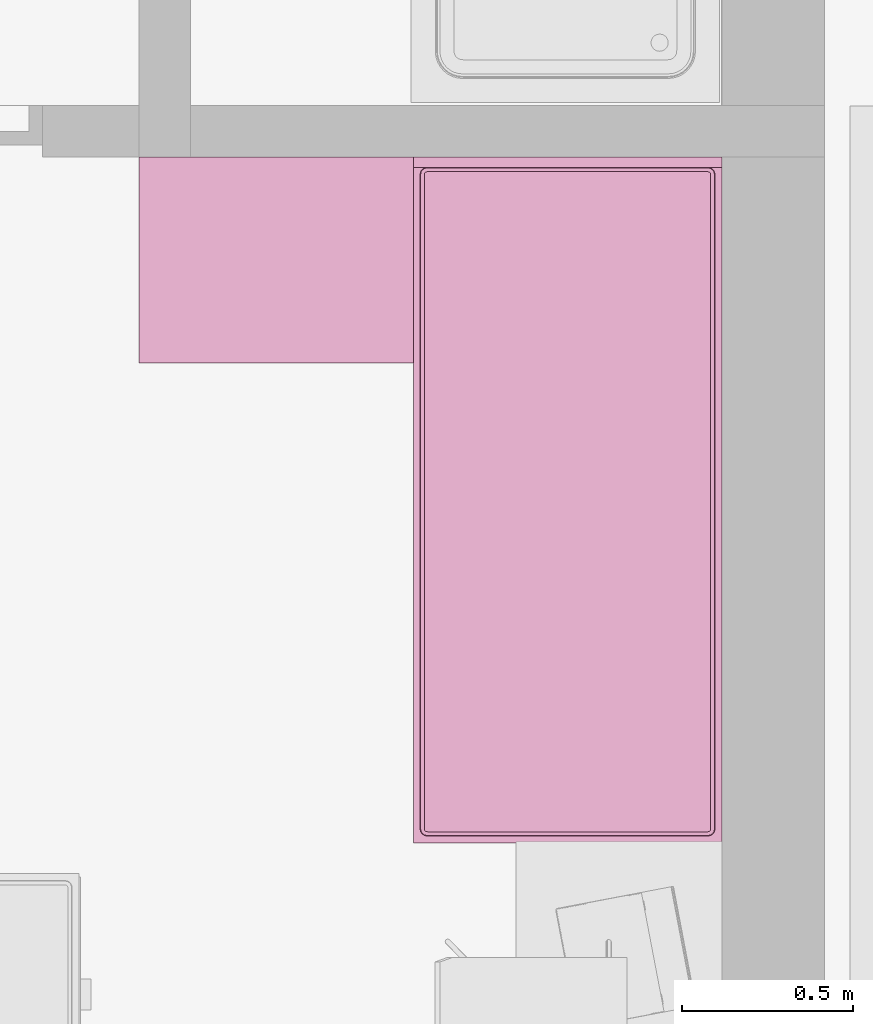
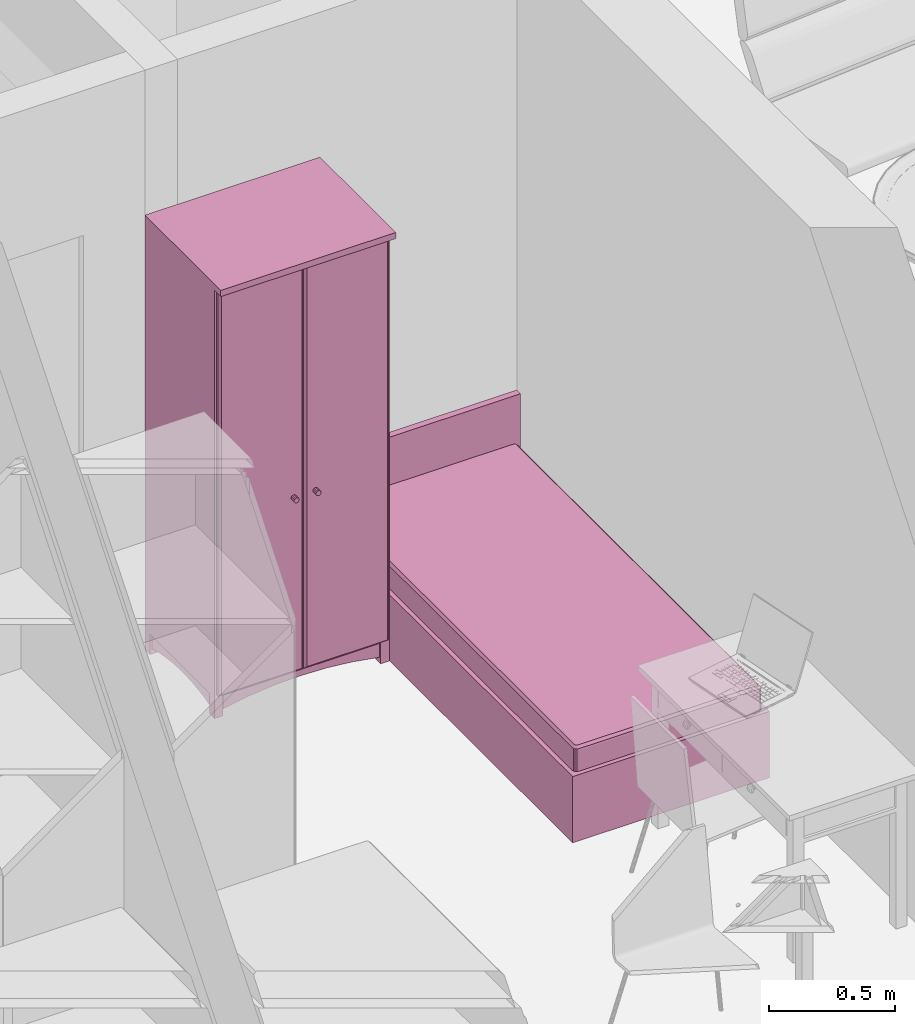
# One storey, part 109 of 165: 2 furnishings.
"""IFC2X3 building model written with IfcOpenShell, lengths in millimetres."""

from ifc_helpers import new_model, entity, si_unit, converted_unit, money_unit, direction, frame, origin_with_axes, place, context, subcontext, project, spatial, faceted_brep, source, transform, mapped, material, material_list, type_object, element, save


model = new_model("IFC2X3")

# Units and contexts
model_context = context("Model", 3, precision=1e-05, world=origin_with_axes(), true_north=direction((0.0, 1.0)))
body_context = subcontext(model_context, "Body", "Model", "MODEL_VIEW")
ifc_project = project(units=[si_unit("LENGTHUNIT", "METRE", prefix="MILLI"), si_unit("AREAUNIT", "SQUARE_METRE"), si_unit("VOLUMEUNIT", "CUBIC_METRE"), converted_unit("PLANEANGLEUNIT", "DEGREE", entity("IfcPlaneAngleMeasure", 0.0174532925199), si_unit("PLANEANGLEUNIT", "RADIAN"), dimensions=[0, 0, 0, 0, 0, 0, 0]), si_unit("SOLIDANGLEUNIT", "STERADIAN"), money_unit("USD"), converted_unit("TIMEUNIT", "Year", entity("IfcTimeMeasure", 31556926.0), si_unit("TIMEUNIT", "SECOND"), dimensions=[0, 0, 0, 0, 0, 0, 0]), si_unit("MASSUNIT", "GRAM"), si_unit("THERMODYNAMICTEMPERATUREUNIT", "DEGREE_CELSIUS"), si_unit("LUMINOUSINTENSITYUNIT", "LUMEN")], contexts=[model_context])

# Site, building, storey
site_placement = place(None, origin_with_axes())
site = spatial("IfcSite", under=ifc_project, at=site_placement, Name="Site", CompositionType="ELEMENT")
building_placement = place(site_placement, origin_with_axes())
building = spatial("IfcBuilding", under=site, at=building_placement, Name="Building", CompositionType="ELEMENT")
storey_placement = place(building_placement, frame((0.0, 0.0, 6300.0), z_axis=(0.0, 0.0, 1.0), x_axis=(1.0, 0.0, 0.0)))
storey = spatial("IfcBuildingStorey", under=building, at=storey_placement, Name="4KORRUS", CompositionType="ELEMENT", Elevation=6300.0)

# Furnishings
ifc_material = material(Name="Background")
ifc_material_list = material_list([ifc_material])
furnishing_element_type_1 = type_object("IfcFurnishingElementType", Name="Bed 19")
shared_shape_1 = source(origin_with_axes(), body_context, "Body", "Brep", [
    faceted_brep([(900.0, 1970.0, 0.0), (0.0, 1970.0, 0.0), (0.0, 2000.0, 0.0), (900.0, 2000.0, 0.0), (900.0, 1970.0, 660.0), (0.0, 1970.0, 660.0), (0.0, 2000.0, 660.0), (900.0, 2000.0, 660.0)], [[[0, 1, 2, 3]], [[1, 0, 4, 5]], [[2, 1, 5, 6]], [[3, 2, 6, 7]], [[0, 3, 7, 4]], [[5, 4, 7, 6]]]),
    faceted_brep([(900.0, 0.0, 0.0), (0.0, 0.0, 0.0), (0.0, 1970.0, 0.0), (900.0, 1970.0, 0.0), (900.0, 0.0, 320.0), (0.0, 0.0, 320.0), (0.0, 1970.0, 320.0), (900.0, 1970.0, 320.0)], [[[0, 1, 2, 3]], [[1, 0, 4, 5]], [[2, 1, 5, 6]], [[3, 2, 6, 7]], [[0, 3, 7, 4]], [[5, 4, 7, 6]]]),
    faceted_brep([(905.0, 10.0, 30.0), (900.0, 10.0, 30.0), (900.0, 695.0, 30.0), (905.0, 695.0, 30.0), (905.0, 10.0, 290.0), (900.0, 10.0, 290.0), (900.0, 695.0, 290.0), (905.0, 695.0, 290.0)], [[[0, 1, 2, 3]], [[1, 0, 4, 5]], [[2, 1, 5, 6]], [[3, 2, 6, 7]], [[0, 3, 7, 4]], [[5, 4, 7, 6]]]),
    faceted_brep([(935.0, 307.5, 150.0), (905.0, 307.5, 150.0), (905.0, 397.5, 150.0), (935.0, 397.5, 150.0), (935.0, 307.5, 170.0), (905.0, 307.5, 170.0), (905.0, 397.5, 170.0), (935.0, 397.5, 170.0)], [[[0, 1, 2, 3]], [[1, 0, 4, 5]], [[2, 1, 5, 6]], [[3, 2, 6, 7]], [[0, 3, 7, 4]], [[5, 4, 7, 6]]]),
    faceted_brep([(905.0, 705.0, 30.0), (900.0, 705.0, 30.0), (900.0, 1390.0, 30.0), (905.0, 1390.0, 30.0), (905.0, 705.0, 290.0), (900.0, 705.0, 290.0), (900.0, 1390.0, 290.0), (905.0, 1390.0, 290.0)], [[[0, 1, 2, 3]], [[1, 0, 4, 5]], [[2, 1, 5, 6]], [[3, 2, 6, 7]], [[0, 3, 7, 4]], [[5, 4, 7, 6]]]),
    faceted_brep([(935.0, 1002.5, 150.0), (905.0, 1002.5, 150.0), (905.0, 1092.5, 150.0), (935.0, 1092.5, 150.0), (935.0, 1002.5, 170.0), (905.0, 1002.5, 170.0), (905.0, 1092.5, 170.0), (935.0, 1092.5, 170.0)], [[[0, 1, 2, 3]], [[1, 0, 4, 5]], [[2, 1, 5, 6]], [[3, 2, 6, 7]], [[0, 3, 7, 4]], [[5, 4, 7, 6]]]),
    faceted_brep([(20.0, 40.0, 350.0), (20.0, 1950.0, 350.0), (21.522, 1957.654, 350.0), (25.858, 1964.142, 350.0), (32.346, 1968.478, 350.0), (40.0, 1970.0, 350.0), (860.0, 1970.0, 350.0), (867.654, 1968.478, 350.0), (874.142, 1964.142, 350.0), (878.478, 1957.654, 350.0), (880.0, 1950.0, 350.0), (880.0, 40.0, 350.0), (878.478, 32.346, 350.0), (874.142, 25.858, 350.0), (867.654, 21.522, 350.0), (860.0, 20.0, 350.0), (40.0, 20.0, 350.0), (32.346, 21.522, 350.0), (25.858, 25.858, 350.0), (21.522, 32.346, 350.0), (20.0, 40.0, 420.0), (20.0, 1950.0, 420.0), (21.522, 1957.654, 420.0), (25.858, 1964.142, 420.0), (32.346, 1968.478, 420.0), (40.0, 1970.0, 420.0), (860.0, 1970.0, 420.0), (867.654, 1968.478, 420.0), (874.142, 1964.142, 420.0), (878.478, 1957.654, 420.0), (880.0, 1950.0, 420.0), (880.0, 40.0, 420.0), (878.478, 32.346, 420.0), (874.142, 25.858, 420.0), (867.654, 21.522, 420.0), (860.0, 20.0, 420.0), (40.0, 20.0, 420.0), (32.346, 21.522, 420.0), (25.858, 25.858, 420.0), (21.522, 32.346, 420.0), (21.522, 40.15, 427.654), (21.522, 1949.85, 427.654), (22.956, 1957.06, 427.654), (26.955, 1963.045, 427.654), (32.94, 1967.044, 427.654), (40.15, 1968.478, 427.654), (859.85, 1968.478, 427.654), (867.06, 1967.044, 427.654), (873.045, 1963.045, 427.654), (877.044, 1957.06, 427.654), (878.478, 1949.85, 427.654), (878.478, 40.15, 427.654), (877.044, 32.94, 427.654), (873.045, 26.955, 427.654), (867.06, 22.956, 427.654), (859.85, 21.522, 427.654), (40.15, 21.522, 427.654), (32.94, 22.956, 427.654), (26.955, 26.955, 427.654), (22.956, 32.94, 427.654), (32.346, 41.216, 438.478), (32.346, 1948.784, 438.478), (33.152, 1952.836, 438.478), (34.759, 1955.241, 438.478), (37.164, 1956.848, 438.478), (41.216, 1957.654, 438.478), (858.784, 1957.654, 438.478), (862.836, 1956.848, 438.478), (865.241, 1955.241, 438.478), (866.848, 1952.836, 438.478), (867.654, 1948.784, 438.478), (867.654, 41.216, 438.478), (866.848, 37.164, 438.478), (865.241, 34.759, 438.478), (862.836, 33.152, 438.478), (858.784, 32.346, 438.478), (41.216, 32.346, 438.478), (37.164, 33.152, 438.478), (34.759, 34.759, 438.478), (33.152, 37.164, 438.478), (40.0, 41.97, 440.0), (40.0, 1948.03, 440.0), (40.327, 1949.673, 440.0), (40.0, 1950.0, 439.924), (41.97, 1950.0, 440.0), (858.03, 1950.0, 440.0), (859.673, 1949.673, 440.0), (860.0, 1950.0, 439.924), (860.0, 1948.03, 440.0), (860.0, 41.97, 440.0), (859.673, 40.327, 440.0), (860.0, 40.0, 439.924), (858.03, 40.0, 440.0), (41.97, 40.0, 440.0), (40.327, 40.327, 440.0), (40.0, 40.0, 439.924)], [[[0, 1, 2, 3, 4, 5, 6, 7, 8, 9, 10, 11, 12, 13, 14, 15, 16, 17, 18, 19]], [[1, 0, 20, 21]], [[2, 1, 21, 22]], [[3, 2, 22, 23]], [[4, 3, 23, 24]], [[5, 4, 24, 25]], [[6, 5, 25, 26]], [[7, 6, 26, 27]], [[8, 7, 27, 28]], [[9, 8, 28, 29]], [[10, 9, 29, 30]], [[11, 10, 30, 31]], [[12, 11, 31, 32]], [[13, 12, 32, 33]], [[14, 13, 33, 34]], [[15, 14, 34, 35]], [[16, 15, 35, 36]], [[17, 16, 36, 37]], [[18, 17, 37, 38]], [[19, 18, 38, 39]], [[0, 19, 39, 20]], [[21, 20, 40, 41]], [[22, 21, 41, 42]], [[23, 22, 42, 43]], [[24, 23, 43, 44]], [[25, 24, 44, 45]], [[26, 25, 45, 46]], [[27, 26, 46, 47]], [[28, 27, 47, 48]], [[29, 28, 48, 49]], [[30, 29, 49, 50]], [[31, 30, 50, 51]], [[32, 31, 51, 52]], [[33, 32, 52, 53]], [[34, 33, 53, 54]], [[35, 34, 54, 55]], [[36, 35, 55, 56]], [[37, 36, 56, 57]], [[38, 37, 57, 58]], [[39, 38, 58, 59]], [[20, 39, 59, 40]], [[41, 40, 60, 61]], [[42, 41, 61, 62]], [[43, 42, 62, 63]], [[44, 43, 63, 64]], [[45, 44, 64, 65]], [[46, 45, 65, 66]], [[47, 46, 66, 67]], [[48, 47, 67, 68]], [[49, 48, 68, 69]], [[50, 49, 69, 70]], [[51, 50, 70, 71]], [[52, 51, 71, 72]], [[53, 52, 72, 73]], [[54, 53, 73, 74]], [[55, 54, 74, 75]], [[56, 55, 75, 76]], [[57, 56, 76, 77]], [[58, 57, 77, 78]], [[59, 58, 78, 79]], [[40, 59, 79, 60]], [[61, 60, 80, 81]], [[62, 61, 81, 82, 83]], [[63, 62, 83]], [[64, 63, 83]], [[65, 64, 83, 82, 84]], [[66, 65, 84, 85]], [[67, 66, 85, 86, 87]], [[68, 67, 87]], [[69, 68, 87]], [[70, 69, 87, 86, 88]], [[71, 70, 88, 89]], [[72, 71, 89, 90, 91]], [[73, 72, 91]], [[74, 73, 91]], [[75, 74, 91, 90, 92]], [[76, 75, 92, 93]], [[77, 76, 93, 94, 95]], [[78, 77, 95]], [[79, 78, 95]], [[60, 79, 95, 94, 80]], [[81, 80, 94, 93, 92, 90, 89, 88, 86, 85, 84, 82]]]),
    faceted_brep([(20.0, 40.0, 350.0), (21.522, 32.346, 350.0), (25.858, 25.858, 350.0), (32.346, 21.522, 350.0), (40.0, 20.0, 350.0), (860.0, 20.0, 350.0), (867.654, 21.522, 350.0), (874.142, 25.858, 350.0), (878.478, 32.346, 350.0), (880.0, 40.0, 350.0), (880.0, 1950.0, 350.0), (878.478, 1957.654, 350.0), (874.142, 1964.142, 350.0), (867.654, 1968.478, 350.0), (860.0, 1970.0, 350.0), (40.0, 1970.0, 350.0), (32.346, 1968.478, 350.0), (25.858, 1964.142, 350.0), (21.522, 1957.654, 350.0), (20.0, 1950.0, 350.0), (20.0, 40.0, 320.0), (21.522, 32.346, 320.0), (25.858, 25.858, 320.0), (32.346, 21.522, 320.0), (40.0, 20.0, 320.0), (860.0, 20.0, 320.0), (867.654, 21.522, 320.0), (874.142, 25.858, 320.0), (878.478, 32.346, 320.0), (880.0, 40.0, 320.0), (880.0, 1950.0, 320.0), (878.478, 1957.654, 320.0), (874.142, 1964.142, 320.0), (867.654, 1968.478, 320.0), (860.0, 1970.0, 320.0), (40.0, 1970.0, 320.0), (32.346, 1968.478, 320.0), (25.858, 1964.142, 320.0), (21.522, 1957.654, 320.0), (20.0, 1950.0, 320.0)], [[[0, 1, 2, 3, 4, 5, 6, 7, 8, 9, 10, 11, 12, 13, 14, 15, 16, 17, 18, 19]], [[0, 20, 21, 1]], [[1, 21, 22, 2]], [[2, 22, 23, 3]], [[3, 23, 24, 4]], [[4, 24, 25, 5]], [[5, 25, 26, 6]], [[6, 26, 27, 7]], [[7, 27, 28, 8]], [[8, 28, 29, 9]], [[9, 29, 30, 10]], [[10, 30, 31, 11]], [[11, 31, 32, 12]], [[12, 32, 33, 13]], [[13, 33, 34, 14]], [[14, 34, 35, 15]], [[15, 35, 36, 16]], [[16, 36, 37, 17]], [[17, 37, 38, 18]], [[18, 38, 39, 19]], [[19, 39, 20, 0]], [[20, 39, 38, 37, 36, 35, 34, 33, 32, 31, 30, 29, 28, 27, 26, 25, 24, 23, 22, 21]]]),
])
furnishing_1_placement = place(storey_placement, frame((-13190.2967033, -17439.2398994, 0.0), z_axis=(0.0, 0.0, 1.0), x_axis=(1.0, 0.0, 0.0)))
element("IfcFurnishingElement", 1, at=furnishing_1_placement, inside=storey, type_object=furnishing_element_type_1, material=ifc_material_list, Name="FU - 013", context=body_context, shape_type="MappedRepresentation", body=[
    mapped(shared_shape_1, transform((0.0, 0.0, 0.0))),
])
furnishing_element_type_2 = type_object("IfcFurnishingElementType", Name="Cupboard 19")
shared_shape_2 = source(origin_with_axes(), body_context, "Body", "Brep", [
    faceted_brep([(780.0, 600.0, 120.0), (780.0, 600.0, 2050.0), (780.0, 580.0, 2050.0), (780.0, 580.0, 120.0), (20.0, 600.0, 120.0), (20.0, 600.0, 2050.0), (20.0, 580.0, 2050.0), (20.0, 580.0, 120.0)], [[[0, 1, 2, 3]], [[4, 5, 1, 0]], [[1, 5, 6, 2]], [[3, 2, 6, 7]], [[0, 3, 7, 4]], [[7, 6, 5, 4]]]),
    faceted_brep([(0.0, 50.0, 100.0), (0.0, 600.0, 100.0), (20.0, 600.0, 100.0), (20.0, 50.0, 100.0), (0.0, 50.0, 2070.0), (0.0, 600.0, 2070.0), (20.0, 600.0, 2070.0), (20.0, 50.0, 2070.0)], [[[0, 1, 2, 3]], [[0, 4, 5, 1]], [[1, 5, 6, 2]], [[2, 6, 7, 3]], [[3, 7, 4, 0]], [[7, 6, 5, 4]]]),
    faceted_brep([(780.0, 50.0, 100.0), (780.0, 600.0, 100.0), (800.0, 600.0, 100.0), (800.0, 50.0, 100.0), (780.0, 50.0, 2070.0), (780.0, 600.0, 2070.0), (800.0, 600.0, 2070.0), (800.0, 50.0, 2070.0)], [[[0, 1, 2, 3]], [[0, 4, 5, 1]], [[1, 5, 6, 2]], [[2, 6, 7, 3]], [[3, 7, 4, 0]], [[7, 6, 5, 4]]]),
    faceted_brep([(20.0, 50.0, 100.0), (20.0, 600.0, 100.0), (780.0, 600.0, 100.0), (780.0, 50.0, 100.0), (20.0, 50.0, 120.0), (20.0, 600.0, 120.0), (780.0, 600.0, 120.0), (780.0, 50.0, 120.0)], [[[0, 1, 2, 3]], [[0, 4, 5, 1]], [[1, 5, 6, 2]], [[2, 6, 7, 3]], [[3, 7, 4, 0]], [[7, 6, 5, 4]]]),
    faceted_brep([(20.0, 50.0, 2050.0), (20.0, 600.0, 2050.0), (780.0, 600.0, 2050.0), (780.0, 50.0, 2050.0), (20.0, 50.0, 2070.0), (20.0, 600.0, 2070.0), (780.0, 600.0, 2070.0), (780.0, 50.0, 2070.0)], [[[0, 1, 2, 3]], [[0, 4, 5, 1]], [[1, 5, 6, 2]], [[2, 6, 7, 3]], [[3, 7, 4, 0]], [[7, 6, 5, 4]]]),
    faceted_brep([(0.0, 600.0, 2070.0), (0.0, 0.0, 2070.0), (0.0, 0.0, 2100.0), (0.0, 600.0, 2100.0), (800.0, 600.0, 2070.0), (800.0, 0.0, 2070.0), (800.0, 0.0, 2100.0), (800.0, 600.0, 2100.0)], [[[0, 1, 2, 3]], [[0, 4, 5, 1]], [[1, 5, 6, 2]], [[3, 2, 6, 7]], [[4, 0, 3, 7]], [[5, 4, 7, 6]]]),
    faceted_brep([(760.0, 590.0, 25.0), (760.0, 570.0, 25.0), (640.962, 570.0, 45.8), (640.962, 590.0, 45.8), (760.0, 590.0, 100.0), (760.0, 570.0, 100.0), (40.0, 570.0, 100.0), (40.0, 570.0, 25.0), (159.038, 570.0, 45.8), (279.23, 570.0, 58.32), (400.0, 570.0, 62.5), (520.77, 570.0, 58.32), (520.77, 590.0, 58.32), (400.0, 590.0, 62.5), (279.23, 590.0, 58.32), (159.038, 590.0, 45.8), (40.0, 590.0, 25.0), (40.0, 590.0, 100.0)], [[[0, 1, 2, 3]], [[4, 5, 1, 0]], [[1, 5, 6, 7, 8, 9, 10, 11, 2]], [[3, 2, 11, 12]], [[0, 3, 12, 13, 14, 15, 16, 17, 4]], [[17, 6, 5, 4]], [[16, 7, 6, 17]], [[15, 8, 7, 16]], [[14, 9, 8, 15]], [[13, 10, 9, 14]], [[12, 11, 10, 13]]]),
    faceted_brep([(760.0, 80.0, 25.0), (760.0, 60.0, 25.0), (640.962, 60.0, 45.8), (640.962, 80.0, 45.8), (760.0, 80.0, 100.0), (760.0, 60.0, 100.0), (40.0, 60.0, 100.0), (40.0, 60.0, 25.0), (159.038, 60.0, 45.8), (279.23, 60.0, 58.32), (400.0, 60.0, 62.5), (520.77, 60.0, 58.32), (520.77, 80.0, 58.32), (400.0, 80.0, 62.5), (279.23, 80.0, 58.32), (159.038, 80.0, 45.8), (40.0, 80.0, 25.0), (40.0, 80.0, 100.0)], [[[0, 1, 2, 3]], [[4, 5, 1, 0]], [[1, 5, 6, 7, 8, 9, 10, 11, 2]], [[3, 2, 11, 12]], [[0, 3, 12, 13, 14, 15, 16, 17, 4]], [[17, 6, 5, 4]], [[16, 7, 6, 17]], [[15, 8, 7, 16]], [[14, 9, 8, 15]], [[13, 10, 9, 14]], [[12, 11, 10, 13]]]),
    faceted_brep([(790.0, 90.0, 25.0), (770.0, 90.0, 25.0), (770.0, 141.266, 38.072), (790.0, 141.266, 38.072), (790.0, 90.0, 100.0), (770.0, 90.0, 100.0), (770.0, 560.0, 100.0), (770.0, 560.0, 25.0), (770.0, 508.734, 38.072), (770.0, 456.752, 47.92), (770.0, 404.257, 54.508), (770.0, 351.453, 57.808), (770.0, 298.547, 57.808), (770.0, 245.743, 54.508), (770.0, 193.248, 47.92), (790.0, 193.248, 47.92), (790.0, 245.743, 54.508), (790.0, 298.547, 57.808), (790.0, 351.453, 57.808), (790.0, 404.257, 54.508), (790.0, 456.752, 47.92), (790.0, 508.734, 38.072), (790.0, 560.0, 25.0), (790.0, 560.0, 100.0)], [[[0, 1, 2, 3]], [[4, 5, 1, 0]], [[1, 5, 6, 7, 8, 9, 10, 11, 12, 13, 14, 2]], [[3, 2, 14, 15]], [[0, 3, 15, 16, 17, 18, 19, 20, 21, 22, 23, 4]], [[23, 6, 5, 4]], [[22, 7, 6, 23]], [[21, 8, 7, 22]], [[20, 9, 8, 21]], [[19, 10, 9, 20]], [[18, 11, 10, 19]], [[17, 12, 11, 18]], [[16, 13, 12, 17]], [[15, 14, 13, 16]]]),
    faceted_brep([(30.0, 90.0, 25.0), (10.0, 90.0, 25.0), (10.0, 141.266, 38.072), (30.0, 141.266, 38.072), (30.0, 90.0, 100.0), (10.0, 90.0, 100.0), (10.0, 560.0, 100.0), (10.0, 560.0, 25.0), (10.0, 508.734, 38.072), (10.0, 456.752, 47.92), (10.0, 404.257, 54.508), (10.0, 351.453, 57.808), (10.0, 298.547, 57.808), (10.0, 245.743, 54.508), (10.0, 193.248, 47.92), (30.0, 193.248, 47.92), (30.0, 245.743, 54.508), (30.0, 298.547, 57.808), (30.0, 351.453, 57.808), (30.0, 404.257, 54.508), (30.0, 456.752, 47.92), (30.0, 508.734, 38.072), (30.0, 560.0, 25.0), (30.0, 560.0, 100.0)], [[[0, 1, 2, 3]], [[4, 5, 1, 0]], [[1, 5, 6, 7, 8, 9, 10, 11, 12, 13, 14, 2]], [[3, 2, 14, 15]], [[0, 3, 15, 16, 17, 18, 19, 20, 21, 22, 23, 4]], [[23, 6, 5, 4]], [[22, 7, 6, 23]], [[21, 8, 7, 22]], [[20, 9, 8, 21]], [[19, 10, 9, 20]], [[18, 11, 10, 19]], [[17, 12, 11, 18]], [[16, 13, 12, 17]], [[15, 14, 13, 16]]]),
    faceted_brep([(760.0, 560.0, 0.0), (760.0, 560.0, 100.0), (760.0, 600.0, 100.0), (760.0, 600.0, 0.0), (800.0, 560.0, 0.0), (800.0, 560.0, 100.0), (800.0, 600.0, 100.0), (800.0, 600.0, 0.0)], [[[0, 1, 2, 3]], [[4, 5, 1, 0]], [[1, 5, 6, 2]], [[3, 2, 6, 7]], [[0, 3, 7, 4]], [[7, 6, 5, 4]]]),
    faceted_brep([(0.0, 560.0, 0.0), (0.0, 560.0, 100.0), (0.0, 600.0, 100.0), (0.0, 600.0, 0.0), (40.0, 560.0, 0.0), (40.0, 560.0, 100.0), (40.0, 600.0, 100.0), (40.0, 600.0, 0.0)], [[[0, 1, 2, 3]], [[4, 5, 1, 0]], [[1, 5, 6, 2]], [[3, 2, 6, 7]], [[0, 3, 7, 4]], [[7, 6, 5, 4]]]),
    faceted_brep([(760.0, 50.0, 0.0), (760.0, 50.0, 100.0), (760.0, 90.0, 100.0), (760.0, 90.0, 0.0), (800.0, 50.0, 0.0), (800.0, 50.0, 100.0), (800.0, 90.0, 100.0), (800.0, 90.0, 0.0)], [[[0, 1, 2, 3]], [[4, 5, 1, 0]], [[1, 5, 6, 2]], [[3, 2, 6, 7]], [[0, 3, 7, 4]], [[7, 6, 5, 4]]]),
    faceted_brep([(0.0, 50.0, 0.0), (0.0, 50.0, 100.0), (0.0, 90.0, 100.0), (0.0, 90.0, 0.0), (40.0, 50.0, 0.0), (40.0, 50.0, 100.0), (40.0, 90.0, 100.0), (40.0, 90.0, 0.0)], [[[0, 1, 2, 3]], [[4, 5, 1, 0]], [[1, 5, 6, 2]], [[3, 2, 6, 7]], [[0, 3, 7, 4]], [[7, 6, 5, 4]]]),
    faceted_brep([(780.0, 580.0, 587.5), (780.0, 580.0, 607.5), (780.0, 50.0, 607.5), (780.0, 50.0, 587.5), (20.0, 580.0, 587.5), (20.0, 580.0, 607.5), (20.0, 50.0, 607.5), (20.0, 50.0, 587.5)], [[[0, 1, 2, 3]], [[4, 5, 1, 0]], [[1, 5, 6, 2]], [[3, 2, 6, 7]], [[0, 3, 7, 4]], [[7, 6, 5, 4]]]),
    faceted_brep([(780.0, 580.0, 1075.0), (780.0, 580.0, 1095.0), (780.0, 50.0, 1095.0), (780.0, 50.0, 1075.0), (20.0, 580.0, 1075.0), (20.0, 580.0, 1095.0), (20.0, 50.0, 1095.0), (20.0, 50.0, 1075.0)], [[[0, 1, 2, 3]], [[4, 5, 1, 0]], [[1, 5, 6, 2]], [[3, 2, 6, 7]], [[0, 3, 7, 4]], [[7, 6, 5, 4]]]),
    faceted_brep([(780.0, 580.0, 1562.5), (780.0, 580.0, 1582.5), (780.0, 50.0, 1582.5), (780.0, 50.0, 1562.5), (20.0, 580.0, 1562.5), (20.0, 580.0, 1582.5), (20.0, 50.0, 1582.5), (20.0, 50.0, 1562.5)], [[[0, 1, 2, 3]], [[4, 5, 1, 0]], [[1, 5, 6, 2]], [[3, 2, 6, 7]], [[0, 3, 7, 4]], [[7, 6, 5, 4]]]),
    faceted_brep([(789.5, 50.0, 110.5), (400.5, 50.0, 110.5), (400.5, 50.0, 2059.5), (789.5, 50.0, 2059.5), (789.5, 40.0, 110.5), (400.5, 40.0, 110.5), (400.5, 40.0, 2059.5), (789.5, 40.0, 2059.5), (779.5, 30.0, 120.5), (410.5, 30.0, 120.5), (410.5, 30.0, 2049.5), (779.5, 30.0, 2049.5)], [[[0, 1, 2, 3]], [[0, 4, 5, 1]], [[1, 5, 6, 2]], [[2, 6, 7, 3]], [[3, 7, 4, 0]], [[4, 8, 9, 5]], [[5, 9, 10, 6]], [[6, 10, 11, 7]], [[7, 11, 8, 4]], [[10, 9, 8, 11]]]),
    faceted_brep([(399.5, 50.0, 110.5), (10.5, 50.0, 110.5), (10.5, 50.0, 2059.5), (399.5, 50.0, 2059.5), (399.5, 40.0, 110.5), (10.5, 40.0, 110.5), (10.5, 40.0, 2059.5), (399.5, 40.0, 2059.5), (389.5, 30.0, 120.5), (20.5, 30.0, 120.5), (20.5, 30.0, 2049.5), (389.5, 30.0, 2049.5)], [[[0, 1, 2, 3]], [[0, 4, 5, 1]], [[1, 5, 6, 2]], [[2, 6, 7, 3]], [[3, 7, 4, 0]], [[4, 8, 9, 5]], [[5, 9, 10, 6]], [[6, 10, 11, 7]], [[7, 11, 8, 4]], [[10, 9, 8, 11]]]),
    faceted_brep([(339.608, 30.0, 954.0), (338.0, 30.0, 960.0), (339.608, 30.0, 966.0), (344.0, 30.0, 970.392), (350.0, 30.0, 972.0), (356.0, 30.0, 970.392), (360.392, 30.0, 966.0), (362.0, 30.0, 960.0), (360.392, 30.0, 954.0), (356.0, 30.0, 949.608), (350.0, 30.0, 948.0), (344.0, 30.0, 949.608), (339.608, 5.0, 954.0), (338.0, 5.0, 960.0), (339.608, 5.0, 966.0), (344.0, 5.0, 970.392), (350.0, 5.0, 972.0), (356.0, 5.0, 970.392), (360.392, 5.0, 966.0), (362.0, 5.0, 960.0), (360.392, 5.0, 954.0), (356.0, 5.0, 949.608), (350.0, 5.0, 948.0), (344.0, 5.0, 949.608)], [[[0, 1, 2, 3, 4, 5, 6, 7, 8, 9, 10, 11]], [[0, 12, 13, 1]], [[1, 13, 14, 2]], [[2, 14, 15, 3]], [[3, 15, 16, 4]], [[4, 16, 17, 5]], [[5, 17, 18, 6]], [[6, 18, 19, 7]], [[7, 19, 20, 8]], [[8, 20, 21, 9]], [[9, 21, 22, 10]], [[10, 22, 23, 11]], [[11, 23, 12, 0]], [[12, 23, 22, 21, 20, 19, 18, 17, 16, 15, 14, 13]]]),
    faceted_brep([(460.392, 30.0, 954.0), (456.0, 30.0, 949.608), (450.0, 30.0, 948.0), (444.0, 30.0, 949.608), (439.608, 30.0, 954.0), (438.0, 30.0, 960.0), (439.608, 30.0, 966.0), (444.0, 30.0, 970.392), (450.0, 30.0, 972.0), (456.0, 30.0, 970.392), (460.392, 30.0, 966.0), (462.0, 30.0, 960.0), (460.392, 5.0, 954.0), (456.0, 5.0, 949.608), (450.0, 5.0, 948.0), (444.0, 5.0, 949.608), (439.608, 5.0, 954.0), (438.0, 5.0, 960.0), (439.608, 5.0, 966.0), (444.0, 5.0, 970.392), (450.0, 5.0, 972.0), (456.0, 5.0, 970.392), (460.392, 5.0, 966.0), (462.0, 5.0, 960.0)], [[[0, 1, 2, 3, 4, 5, 6, 7, 8, 9, 10, 11]], [[1, 0, 12, 13]], [[2, 1, 13, 14]], [[3, 2, 14, 15]], [[4, 3, 15, 16]], [[5, 4, 16, 17]], [[6, 5, 17, 18]], [[7, 6, 18, 19]], [[8, 7, 19, 20]], [[9, 8, 20, 21]], [[10, 9, 21, 22]], [[11, 10, 22, 23]], [[0, 11, 23, 12]], [[12, 23, 22, 21, 20, 19, 18, 17, 16, 15, 14, 13]]]),
])
furnishing_2_placement = place(storey_placement, frame((-13990.2967033, -16039.2398994, 0.0), z_axis=(0.0, 0.0, 1.0), x_axis=(1.0, 0.0, 0.0)))
element("IfcFurnishingElement", 2, at=furnishing_2_placement, inside=storey, type_object=furnishing_element_type_2, material=ifc_material_list, Name="FU - 014", context=body_context, shape_type="MappedRepresentation", body=[
    mapped(shared_shape_2, transform((0.0, 0.0, 0.0))),
])

save(model, "model.ifc")
